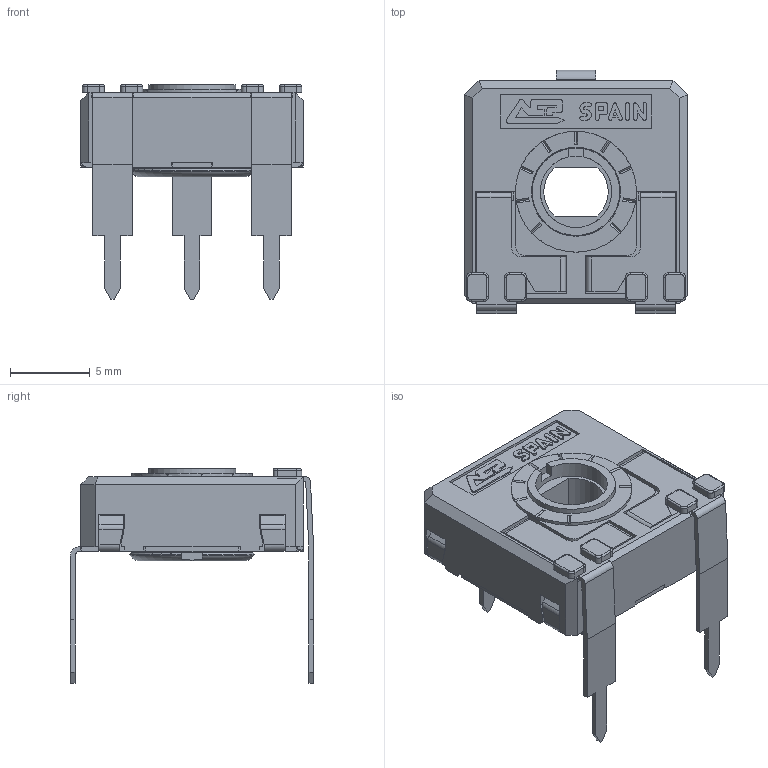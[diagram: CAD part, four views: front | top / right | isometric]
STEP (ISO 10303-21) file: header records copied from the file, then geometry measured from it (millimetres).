
FILE_DESCRIPTION(/* description */ (''),/* implementation_level */ '2;1');
FILE_NAME(/* name */ '\\SERVERACP\intercambio\Ignacio Santa Cecilia\Nueva WEB 2025\CA14 - CE14\CA14NVJ15.stp',/* time_stamp */ '2025-06-03T17:10:24+02:00',/* author */ ('CEM'),/* organization */ (''),/* preprocessor_version */ 'ST-DEVELOPER v17',/* originating_system */ 'Autodesk Inventor 2018',/* authorisation */ '');
FILE_SCHEMA (('AUTOMOTIVE_DESIGN { 1 0 10303 214 3 1 1 }'));
Length unit declared in the file: millimetre
Products named in the file (1): CARCASA CA14 PGA
Bounding box: 14 x 15.3 x 13.5 mm (x, y, z)
Volume: 541.6 mm3; surface area: 1529.5 mm2
Topology: 1 solids, 1 shells, 676 faces, 1911 edges, 1231 vertices
Faces by surface type: plane 500, cylinder 139, torus 23, bspline 8, cone 6
Full cylindrical faces by diameter (mm): 4.5 x1, 5.5 x1, 5.6 x1, 5.752 x1, 6.8 x1, 7.6 x1
Entity records: 22095 total; most frequent: CARTESIAN_POINT 4116, ORIENTED_EDGE 3822, DIRECTION 3567, EDGE_CURVE 1911, LINE 1503, VECTOR 1503, VERTEX_POINT 1231, AXIS2_PLACEMENT_3D 1032
